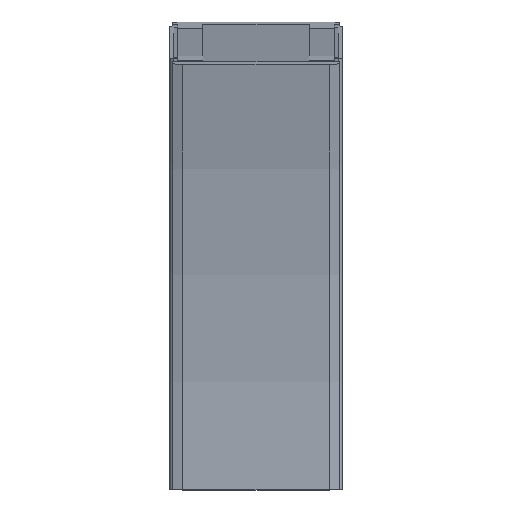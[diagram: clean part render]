
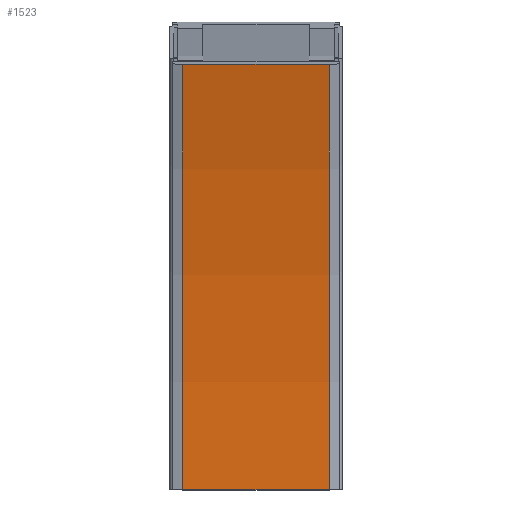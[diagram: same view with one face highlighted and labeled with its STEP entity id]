
A CAD part, top view. The second image highlights one B-rep face of the part: STEP entity #1523.
In plain terms, the highlighted cylindrical face has radius 817.5 mm (diameter 1635 mm), a partial arc.
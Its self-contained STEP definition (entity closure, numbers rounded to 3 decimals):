
#79=CYLINDRICAL_SURFACE('',#1637,817.5);
#110=FACE_OUTER_BOUND('',#197,.T.);
#197=EDGE_LOOP('',(#1004,#1005,#1006,#1007));
#289=CIRCLE('',#1636,817.5);
#290=CIRCLE('',#1638,817.5);
#358=LINE('',#2198,#484);
#359=LINE('',#2200,#485);
#484=VECTOR('',#1790,10.);
#485=VECTOR('',#1791,10.);
#610=VERTEX_POINT('',#2191);
#611=VERTEX_POINT('',#2193);
#612=VERTEX_POINT('',#2197);
#613=VERTEX_POINT('',#2199);
#768=EDGE_CURVE('',#610,#611,#289,.T.);
#769=EDGE_CURVE('',#612,#610,#358,.T.);
#770=EDGE_CURVE('',#613,#611,#359,.T.);
#771=EDGE_CURVE('',#612,#613,#290,.T.);
#1004=ORIENTED_EDGE('',*,*,#769,.T.);
#1005=ORIENTED_EDGE('',*,*,#768,.T.);
#1006=ORIENTED_EDGE('',*,*,#770,.F.);
#1007=ORIENTED_EDGE('',*,*,#771,.F.);
#1523=ADVANCED_FACE('',(#110),#79,.F.);
#1636=AXIS2_PLACEMENT_3D('',#2195,#1786,#1787);
#1637=AXIS2_PLACEMENT_3D('',#2196,#1788,#1789);
#1638=AXIS2_PLACEMENT_3D('',#2201,#1792,#1793);
#1786=DIRECTION('center_axis',(1.,0.,0.));
#1787=DIRECTION('ref_axis',(0.,0.,-1.));
#1788=DIRECTION('center_axis',(1.,0.,0.));
#1789=DIRECTION('ref_axis',(0.,0.,-1.));
#1790=DIRECTION('',(1.,0.,0.));
#1791=DIRECTION('',(1.,0.,0.));
#1792=DIRECTION('center_axis',(1.,0.,0.));
#1793=DIRECTION('ref_axis',(0.,0.,
-1.));
#2191=CARTESIAN_POINT('',(36.5,0.,42.5));
#2193=CARTESIAN_POINT('',(36.5,211.585,70.356));
#2195=CARTESIAN_POINT('Origin',(36.5,0.,
860.));
#2196=CARTESIAN_POINT('Origin',(0.,0.,860.));
#2197=CARTESIAN_POINT('',(-36.5,0.,42.5));
#2198=CARTESIAN_POINT('',(-36.5,0.,42.5));
#2199=CARTESIAN_POINT('',(-36.5,211.585,70.356));
#2200=CARTESIAN_POINT('',(-36.5,211.585,70.356));
#2201=CARTESIAN_POINT('Origin',(-36.5,0.,
860.));
